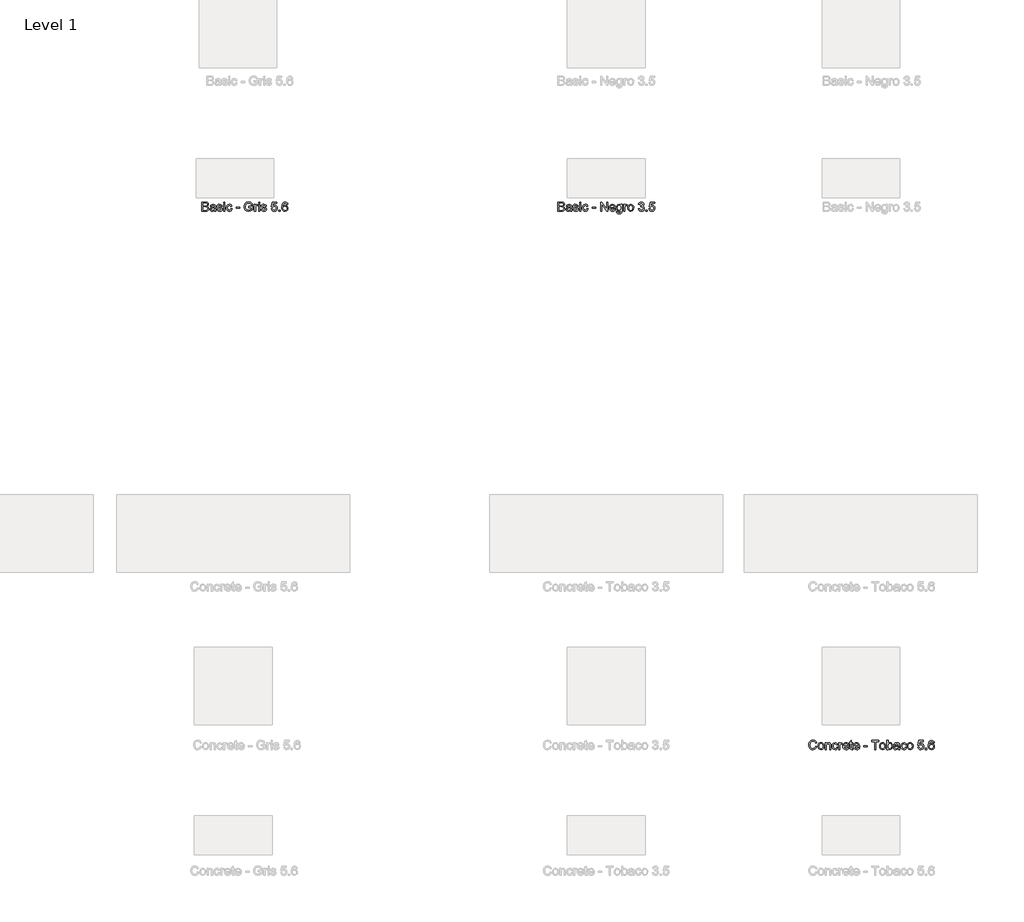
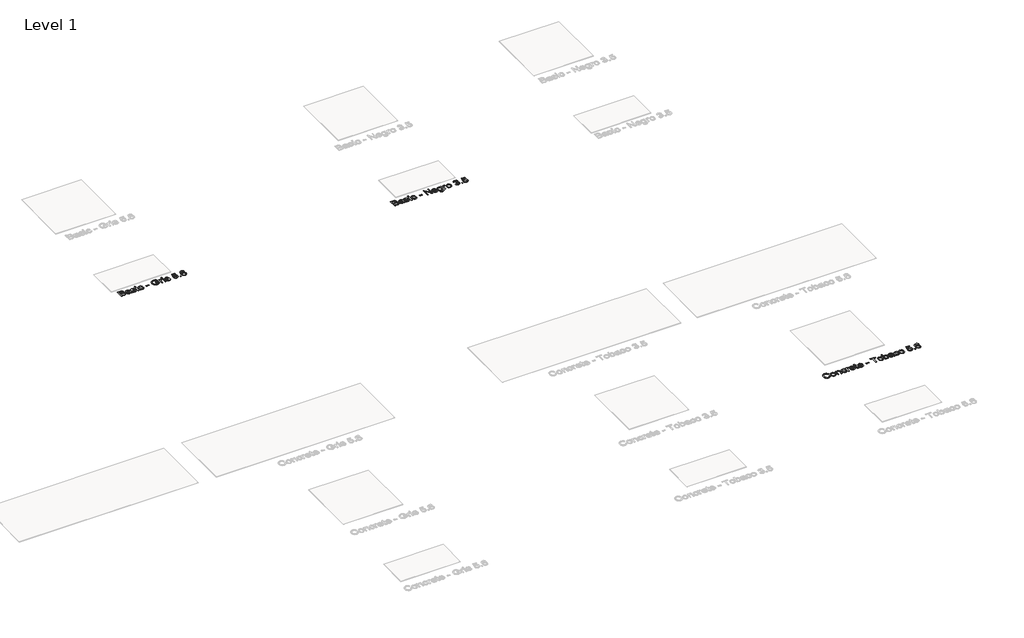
# One storey, part 54 of 80: 3 proxies.
"""IFC4 building model written with IfcOpenShell, lengths in millimetres."""

import ifcopenshell
import ifcopenshell.guid

model = None  # the IFC model being written
_history = None  # IfcOwnerHistory: only IFC2X3 demands one
_inside = {}  # id of a spatial element -> (the spatial element, [elements in it])
_under = {}  # id of a project, library or spatial element -> (it, [spatial elements below it])
_declared = {}  # id of a project -> (the project, [libraries it declares])
_typed = {}  # id of a type object -> (the type object, [elements of that type])
_made_of = {}  # id of a material, layer set ... -> (it, [elements and type objects made of it])


def new_model(schema):
    """Start an empty IFC model of exactly this schema.

    Asked for "IFC4X3", IfcOpenShell would pick the latest addendum, in which some entities
    have other attributes; the version numbers below select the first issue.
    IFC2X3 requires an IfcOwnerHistory on every rooted entity: one is made here for all.
    """
    global model, _history
    if schema == "IFC4X3":
        model = ifcopenshell.file(schema_version=(4, 3, 0, 0))
    else:
        model = ifcopenshell.file(schema=schema)
    _inside.clear()
    _under.clear()
    _declared.clear()
    _typed.clear()
    _made_of.clear()
    _history = None
    if model.schema == "IFC2X3":
        org = make("IfcOrganization", Name="unknown")
        user = make(
            "IfcPersonAndOrganization",
            ThePerson=make("IfcPerson", FamilyName="unknown"),
            TheOrganization=org,
        )
        app = make(
            "IfcApplication",
            ApplicationDeveloper=org,
            Version="unknown",
            ApplicationFullName="unknown",
            ApplicationIdentifier="unknown",
        )
        _history = make(
            "IfcOwnerHistory",
            OwningUser=user,
            OwningApplication=app,
            ChangeAction="ADDED",
            CreationDate=0,
        )
    return model


def make(cls, **values):
    """One entity of the class cls with the attributes given. An attribute that is None is left unset."""
    return model.create_entity(
        cls, **{name: value for name, value in values.items() if value is not None}
    )


def rooted(cls, **values):
    """An entity with a GlobalId (a new one), such as an element, a storey or a relation."""
    return make(cls, GlobalId=ifcopenshell.guid.new(), OwnerHistory=_history, **values)


def si_unit(unit_type, name, prefix=None):
    """IfcSIUnit, for example si_unit("LENGTHUNIT", "METRE", prefix="MILLI")."""
    return make("IfcSIUnit", UnitType=unit_type, Prefix=prefix, Name=name)


def assignment(units):
    """IfcUnitAssignment: the units of a project."""
    return None if units is None else make("IfcUnitAssignment", Units=units)


def point(xyz):
    """IfcCartesianPoint."""
    return None if xyz is None else make("IfcCartesianPoint", Coordinates=xyz)


def direction(xyz):
    """IfcDirection."""
    return None if xyz is None else make("IfcDirection", DirectionRatios=xyz)


def frame(location, z_axis=None, x_axis=None):
    """IfcAxis2Placement3D, a coordinate frame: its origin and axes. An axis left out is left unset."""
    return make(
        "IfcAxis2Placement3D",
        Location=point(location),
        Axis=direction(z_axis),
        RefDirection=direction(x_axis),
    )


def origin():
    """The frame at (0, 0, 0) with its axes left unset."""
    return frame((0.0, 0.0, 0.0))


def origin_with_axes():
    """The frame at (0, 0, 0) with the z axis (0, 0, 1) and the x axis (1, 0, 0) written out."""
    return frame((0.0, 0.0, 0.0), z_axis=(0.0, 0.0, 1.0), x_axis=(1.0, 0.0, 0.0))


def place(relative_to, where):
    """IfcLocalPlacement: puts the frame where relative to a parent placement (None: the world)."""
    return make(
        "IfcLocalPlacement", PlacementRelTo=relative_to, RelativePlacement=where
    )


def context(
    kind, dimensions, precision=None, world=None, true_north=None, identifier=None
):
    """IfcGeometricRepresentationContext, for example the 3D "Model" context."""
    return make(
        "IfcGeometricRepresentationContext",
        ContextIdentifier=identifier,
        ContextType=kind,
        CoordinateSpaceDimension=dimensions,
        Precision=precision,
        WorldCoordinateSystem=world,
        TrueNorth=true_north,
    )


def project(units=None, contexts=None):
    """IfcProject with its units and contexts."""
    return rooted(
        "IfcProject",
        Name="project",
        RepresentationContexts=contexts,
        UnitsInContext=assignment(units),
    )


def spatial(cls, under=None, at=None, **own):
    """A site, building, storey or space (cls), placed at a placement, below another one or the project."""
    s = rooted(cls, ObjectPlacement=at, **own)
    if under is not None:
        _under.setdefault(under.id(), (under, []))[1].append(s)
    return s


def polyline(points):
    """IfcPolyline through the points."""
    return make("IfcPolyline", Points=[point(p) for p in points])


def outline(outer, holes=None, kind="AREA"):
    """IfcArbitraryClosedProfileDef: a profile drawn as a closed curve; with holes, ...WithVoids."""
    if holes is None:
        return make("IfcArbitraryClosedProfileDef", ProfileType=kind, OuterCurve=outer)
    return make(
        "IfcArbitraryProfileDefWithVoids",
        ProfileType=kind,
        OuterCurve=outer,
        InnerCurves=holes,
    )


def extrude(swept, where, along, depth):
    """IfcExtrudedAreaSolid: the profile swept, set in the frame where, extruded along a direction by depth."""
    return make(
        "IfcExtrudedAreaSolid",
        SweptArea=swept,
        Position=where,
        ExtrudedDirection=direction(along),
        Depth=depth,
    )


def shape(context_of_items, identifier, shape_type, items):
    """IfcShapeRepresentation: the items that make up one representation, for example the "Body"."""
    return make(
        "IfcShapeRepresentation",
        ContextOfItems=context_of_items,
        RepresentationIdentifier=identifier,
        RepresentationType=shape_type,
        Items=items,
    )


def made_of(thing, what):
    """Note that an element or type object is made of a material, layer set ...; save() writes the relation."""
    if what is not None:
        _made_of.setdefault(what.id(), (what, []))[1].append(thing)
    return thing


def element(
    cls,
    number,
    at=None,
    inside=None,
    cuts=None,
    type_object=None,
    material=None,
    context=None,
    identifier="Body",
    shape_type=None,
    held_by="IfcProductDefinitionShape",
    body=None,
    shapes=None,
    **own,
):
    """One element of the class cls, such as IfcWall. Its Tag is "e" and its number.

    at: its placement. inside: the storey or other place that contains it. cuts: it is an
    opening in that element (IfcRelVoidsElement). A single representation is given by context,
    identifier, shape_type and body (its items); several are given by shapes. held_by: the class
    of the entity that holds the representations. save() writes the other relations.
    """
    e = rooted(cls, Tag="e%d" % number, ObjectPlacement=at, **own)
    if body is not None:
        shapes = [shape(context, identifier, shape_type, body)]
    if shapes is not None:
        e.Representation = make(held_by, Representations=shapes)
    if inside is not None:
        _inside.setdefault(inside.id(), (inside, []))[1].append(e)
    if cuts is not None:
        rooted(
            "IfcRelVoidsElement", RelatingBuildingElement=cuts, RelatedOpeningElement=e
        )
    if type_object is not None:
        _typed.setdefault(type_object.id(), (type_object, []))[1].append(e)
    return made_of(e, material)


def aggregate(whole, parts):
    """IfcRelAggregates: a whole, such as a stair, and the parts it consists of."""
    return rooted("IfcRelAggregates", RelatingObject=whole, RelatedObjects=parts)


def save(model, path):
    """Write the relations noted so far, then the file.

    IfcRelAggregates (storeys below a building ...), IfcRelContainedInSpatialStructure (elements
    in a storey), IfcRelDefinesByType, IfcRelAssociatesMaterial and IfcRelDeclares: one each for
    every whole, place, type object, material and project.
    """
    for whole, parts in _under.values():
        aggregate(whole, parts)
    for where, things in _inside.values():
        rooted(
            "IfcRelContainedInSpatialStructure",
            RelatedElements=things,
            RelatingStructure=where,
        )
    for kind, things in _typed.values():
        rooted("IfcRelDefinesByType", RelatedObjects=things, RelatingType=kind)
    for what, things in _made_of.values():
        rooted("IfcRelAssociatesMaterial", RelatedObjects=things, RelatingMaterial=what)
    for by, libraries in _declared.values():
        rooted("IfcRelDeclares", RelatingContext=by, RelatedDefinitions=libraries)
    model.write(path)


model = new_model("IFC4")

# Units and contexts
model_context = context("Model", 3, world=origin())
ifc_project = project(units=[si_unit("LENGTHUNIT", "METRE", prefix="MILLI")], contexts=[model_context])

# Site, building, storey
site = spatial("IfcSite", under=ifc_project)
building = spatial("IfcBuilding", under=site)
storey = spatial("IfcBuildingStorey", under=building, Name="Level 1", Elevation=0.0)

# Proxies
placement = place(None, origin())
element("IfcBuildingElementProxy", 1, Name="24\" Arial", ObjectType="24\" Arial", at=placement, inside=storey, context=model_context, shape_type="SweptSolid", body=[
    extrude(outline(polyline([(-15610.0215009, 15638.3282285), (-15610.0215009, 15756.4820747), (-15564.9349625, 15756.4820747), (-15542.8532317, 15753.0061131), (-15529.8147702, 15742.3186131), (-15525.098424, 15727.2032285), (-15529.0647702, 15713.4003439), (-15541.0503471, 15702.9436131), (-15526.4974625, 15691.9243824), (-15521.4061163, 15673.5493824), (-15524.8820779, 15657.6695747), (-15533.4926548, 15646.3618824), (-15546.3436163, 15640.3618824), (-15565.2811163, 15638.3282285), (-15610.0215009, 15638.3282285)]), holes=[polyline([(-15595.2522702, 15653.0974593), (-15564.9638086, 15653.0974593), (-15554.0022702, 15653.6743824), (-15544.7282317, 15656.8907285), (-15538.5840009, 15663.4532285), (-15536.1753471, 15673.4051516), (-15539.0022702, 15684.8859208), (-15548.160924, 15691.7368824), (-15566.4061163, 15693.7128439), (-15595.2522702, 15693.7128439), (-15595.2522702, 15653.0974593)]), polyline([(-15595.2522702, 15708.4820747), (-15568.2811163, 15708.4820747), (-15552.5311163, 15709.7513054), (-15543.0551548, 15715.2176516), (-15539.8676548, 15724.8378439), (-15542.8388086, 15734.4724593), (-15551.348424, 15740.1695747), (-15570.3291933, 15741.7128439), (-15595.2522702, 15741.7128439), (-15595.2522702, 15708.4820747)])]), origin_with_axes(), (0.0, 0.0, 1.0), 2.0),
    extrude(outline(polyline([(-15447.5599625, 15649.4051516), (-15461.8820779, 15639.3955362), (-15477.7041933, 15636.4820747), (-15490.0467413, 15638.2344785), (-15499.1513086, 15643.4916901), (-15504.7654913, 15651.4748631), (-15506.6368856, 15661.4051516), (-15503.8099625, 15673.0878439), (-15496.3820779, 15681.5686131), (-15486.0407317, 15686.414767), (-15473.2618856, 15688.6359208), (-15447.6465009, 15693.7128439), (-15447.5599625, 15697.0013054), (-15451.6272702, 15707.9051516), (-15467.9541933, 15712.1743824), (-15482.8965009, 15709.3330362), (-15490.0215009, 15699.2513054), (-15504.7907317, 15701.0974593), (-15498.4013086, 15715.5205362), (-15485.535924, 15723.9724593), (-15466.0503471, 15726.9436131), (-15448.1513086, 15724.3186131), (-15438.0407317, 15717.727267), (-15433.5118856, 15707.7032285), (-15432.7907317, 15694.7801516), (-15432.7907317, 15676.4051516), (-15432.0407317, 15650.7464977), (-15429.098424, 15638.3282285), (-15443.8676548, 15638.3282285), (-15447.5599625, 15649.4051516)]), holes=[polyline([(-15447.5599625, 15678.9436131), (-15471.3868856, 15674.414767), (-15484.0936163, 15672.0205362), (-15489.848424, 15668.1263054), (-15491.8676548, 15662.4436131), (-15487.4686163, 15654.4532285), (-15474.5599625, 15651.2513054), (-15459.6176548, 15654.7849593), (-15449.9830394, 15663.3378439), (-15447.6465009, 15674.7609208), (-15447.5599625, 15678.9436131)])]), origin_with_axes(), (0.0, 0.0, 1.0), 2.0),
    extrude(outline(polyline([(-15418.0215009, 15664.1743824), (-15403.2522702, 15666.0205362), (-15396.4157317, 15655.0589977), (-15380.7522702, 15651.2513054), (-15365.6945779, 15654.7416901), (-15360.7907317, 15662.9339977), (-15365.723424, 15669.5686131), (-15380.9253471, 15673.7801516), (-15403.1657317, 15681.0061131), (-15412.8724625, 15689.4436131), (-15416.1753471, 15701.3570747), (-15413.5215009, 15712.3618824), (-15406.2811163, 15720.7705362), (-15396.8916933, 15725.1407285), (-15384.1849625, 15726.9436131), (-15366.2138086, 15724.0445747), (-15354.7907317, 15716.1984208), (-15349.7138086, 15702.9436131), (-15364.4830394, 15701.0974593), (-15370.035924, 15709.2464977), (-15383.0311163, 15712.1743824), (-15397.1657317, 15709.3763054), (-15401.4061163, 15702.8570747), (-15399.6465009, 15698.5589977), (-15394.1368856, 15695.2993824), (-15381.4157317, 15692.1551516), (-15359.7378471, 15685.2032285), (-15349.6705394, 15677.3282285), (-15346.0215009, 15664.4916901), (-15350.3051548, 15650.3570747), (-15362.6657317, 15640.102267), (-15380.9541933, 15636.4820747), (-15395.8460202, 15638.227267), (-15406.7138086, 15643.4628439), (-15413.9686163, 15652.1311131), (-15418.0215009, 15664.1743824)])), origin_with_axes(), (0.0, 0.0, 1.0), 2.0),
    extrude(outline(polyline([(-15329.4061163, 15638.3282285), (-15329.4061163, 15725.0974593), (-15314.6368856, 15725.0974593), (-15314.6368856, 15638.3282285), (-15329.4061163, 15638.3282285)])), origin_with_axes(), (0.0, 0.0, 1.0), 2.0),
    extrude(outline(polyline([(-15329.4061163, 15741.7128439), (-15329.4061163, 15756.4820747), (-15314.6368856, 15756.4820747), (-15314.6368856, 15741.7128439), (-15329.4061163, 15741.7128439)])), origin_with_axes(), (0.0, 0.0, 1.0), 2.0),
    extrude(outline(polyline([(-15237.098424, 15669.7128439), (-15222.3291933, 15667.8666901), (-15226.4469817, 15654.7308727), (-15234.1849625, 15644.8041901), (-15244.8147702, 15638.5626035), (-15257.6080394, 15636.4820747), (-15273.3183759, 15639.3847189), (-15285.6032317, 15648.0926516), (-15293.5323183, 15662.2236612), (-15296.1753471, 15681.3955362), (-15291.660924, 15705.9291901), (-15285.9638086, 15715.1275074), (-15277.9013086, 15721.6936131), (-15257.8099625, 15726.9436131), (-15245.3303952, 15725.1407285), (-15235.3532317, 15719.7320747), (-15228.1957798, 15711.0061131), (-15224.1753471, 15699.2513054), (-15238.9445779, 15697.4051516), (-15245.7955394, 15708.4676516), (-15257.6945779, 15712.1743824), (-15267.239049, 15710.3498631), (-15274.8147702, 15704.8763054), (-15279.7582798, 15695.4580362), (-15281.4061163, 15681.7993824), (-15279.7943375, 15667.9568343), (-15274.9590009, 15658.5061131), (-15267.520299, 15653.0650074), (-15258.098424, 15651.2513054), (-15244.1801548, 15655.7801516), (-15237.098424, 15669.7128439)])), origin_with_axes(), (0.0, 0.0, 1.0), 2.0),
    extrude(outline(polyline([(-15170.6368856, 15673.4051516), (-15170.6368856, 15688.1743824), (-15124.4830394, 15688.1743824), (-15124.4830394, 15673.4051516), (-15170.6368856, 15673.4051516)])), origin_with_axes(), (0.0, 0.0, 1.0), 2.0),
    extrude(outline(polyline([(-15004.4830394, 15684.4820747), (-15004.4830394, 15699.2513054), (-14956.4830394, 15699.2513054), (-14956.4830394, 15655.0878439), (-14980.1801548, 15641.1551516), (-15005.2330394, 15636.4820747), (-15021.801549, 15638.3390458), (-15036.7763086, 15643.9099593), (-15049.2162125, 15653.0001035), (-15058.1801548, 15665.414767), (-15063.5996259, 15680.3065939), (-15065.4061163, 15696.8282285), (-15063.6068375, 15713.4688535), (-15058.2090009, 15728.9484208), (-15049.4361644, 15741.9327958), (-15037.5118856, 15751.0878439), (-15022.9878471, 15756.5181324), (-15006.4157317, 15758.3282285), (-14983.3099625, 15754.1311131), (-14967.1128471, 15742.4484208), (-14958.1849625, 15722.9051516), (-14971.8003471, 15719.0686131), (-14978.535924, 15732.727267), (-14990.0455394, 15740.602267), (-15006.6465009, 15743.5589977), (-15025.5551548, 15740.3714977), (-15038.4205394, 15732.0061131), (-15046.0215009, 15720.6263054), (-15050.6368856, 15697.4339977), (-15049.2486644, 15683.3101997), (-15045.0840009, 15671.6888054), (-15038.2690971, 15662.6527477), (-15028.9301548, 15656.2849593), (-15006.4157317, 15651.2513054), (-14986.2090009, 15655.0445747), (-14971.2522702, 15663.1359208), (-14971.2522702, 15684.4820747), (-15004.4830394, 15684.4820747)])), origin_with_axes(), (0.0, 0.0, 1.0), 2.0),
    extrude(outline(polyline([(-14934.3291933, 15638.3282285), (-14934.3291933, 15725.0974593), (-14921.4061163, 15725.0974593), (-14921.4061163, 15712.2609208), (-14912.2330394, 15724.0878439), (-14903.0022702, 15726.9436131), (-14888.1753471, 15722.3859208), (-14893.1080394, 15709.1455362), (-14903.4926548, 15712.1743824), (-14911.8436163, 15709.2609208), (-14917.1657317, 15701.1839977), (-14919.5599625, 15683.9339977), (-14919.5599625, 15638.3282285), (-14934.3291933, 15638.3282285)])), origin_with_axes(), (0.0, 0.0, 1.0), 2.0),
    extrude(outline(polyline([(-14878.9445779, 15741.7128439), (-14878.9445779, 15756.4820747), (-14864.1753471, 15756.4820747), (-14864.1753471, 15741.7128439), (-14878.9445779, 15741.7128439)])), origin_with_axes(), (0.0, 0.0, 1.0), 2.0),
    extrude(outline(polyline([(-14878.9445779, 15638.3282285), (-14878.9445779, 15725.0974593), (-14864.1753471, 15725.0974593), (-14864.1753471, 15638.3282285), (-14878.9445779, 15638.3282285)])), origin_with_axes(), (0.0, 0.0, 1.0), 2.0),
    extrude(outline(polyline([(-14847.5599625, 15664.1743824), (-14832.7907317, 15666.0205362), (-14825.9541933, 15655.0589977), (-14810.2907317, 15651.2513054), (-14795.2330394, 15654.7416901), (-14790.3291933, 15662.9339977), (-14795.2618856, 15669.5686131), (-14810.4638086, 15673.7801516), (-14832.7041933, 15681.0061131), (-14842.410924, 15689.4436131), (-14845.7138086, 15701.3570747), (-14843.0599625, 15712.3618824), (-14835.8195779, 15720.7705362), (-14826.4301548, 15725.1407285), (-14813.723424, 15726.9436131), (-14795.7522702, 15724.0445747), (-14784.3291933, 15716.1984208), (-14779.2522702, 15702.9436131), (-14794.0215009, 15701.0974593), (-14799.5743856, 15709.2464977), (-14812.5695779, 15712.1743824), (-14826.7041933, 15709.3763054), (-14830.9445779, 15702.8570747), (-14829.1849625, 15698.5589977), (-14823.6753471, 15695.2993824), (-14810.9541933, 15692.1551516), (-14789.2763086, 15685.2032285), (-14779.2090009, 15677.3282285), (-14775.5599625, 15664.4916901), (-14779.8436163, 15650.3570747), (-14792.2041933, 15640.102267), (-14810.4926548, 15636.4820747), (-14825.3844817, 15638.227267), (-14836.2522702, 15643.4628439), (-14843.5070779, 15652.1311131), (-14847.5599625, 15664.1743824)])), origin_with_axes(), (0.0, 0.0, 1.0), 2.0),
    extrude(outline(polyline([(-14716.4830394, 15669.7128439), (-14701.7138086, 15671.5589977), (-14694.2715009, 15656.3426516), (-14678.8388086, 15651.2513054), (-14668.2522702, 15653.0217381), (-14660.3195779, 15658.3330362), (-14655.3652509, 15666.5722189), (-14653.7138086, 15677.1263054), (-14655.2606836, 15687.0638054), (-14659.9013086, 15694.664767), (-14667.6717413, 15699.4892862), (-14678.6080394, 15701.0974593), (-14691.5743856, 15698.5301516), (-14699.8676548, 15691.8666901), (-14714.6368856, 15693.7128439), (-14701.7138086, 15754.6359208), (-14644.4830394, 15754.6359208), (-14644.4830394, 15739.8666901), (-14689.7715009, 15739.8666901), (-14696.0888086, 15707.3282285), (-14685.5383279, 15713.7320747), (-14674.4830394, 15715.8666901), (-14660.6837606, 15713.2200554), (-14649.2282317, 15705.2801516), (-14641.5154913, 15693.1791901), (-14638.9445779, 15678.0493824), (-14641.2594817, 15663.2801516), (-14648.2041933, 15650.6455362), (-14661.5022702, 15640.0229401), (-14678.8965009, 15636.4820747), (-14693.4025106, 15638.7573151), (-14704.9590009, 15645.5830362), (-14712.8808759, 15656.1659689), (-14716.4830394, 15669.7128439)])), origin_with_axes(), (0.0, 0.0, 1.0), 2.0),
    extrude(outline(polyline([(-14618.6368856, 15638.3282285), (-14618.6368856, 15653.0974593), (-14603.8676548, 15653.0974593), (-14603.8676548, 15638.3282285), (-14618.6368856, 15638.3282285)])), origin_with_axes(), (0.0, 0.0, 1.0), 2.0),
    extrude(outline(polyline([(-14504.1753471, 15725.0974593), (-14518.9445779, 15723.2513054), (-14524.5407317, 15735.5686131), (-14531.2402509, 15740.1767862), (-14539.3388086, 15741.7128439), (-14552.6657317, 15738.1359208), (-14562.7474625, 15724.7080362), (-14566.9445779, 15698.3859208), (-14553.9205394, 15710.1695747), (-14537.7811163, 15714.0205362), (-14524.1368856, 15711.3883247), (-14512.6849625, 15703.4916901), (-14504.9181356, 15691.4267862), (-14502.3291933, 15676.289767), (-14507.2041933, 15655.9099593), (-14520.6176548, 15641.4868824), (-14539.973424, 15636.4820747), (-14556.7294336, 15639.7993824), (-14570.0743856, 15649.7513054), (-14578.8039529, 15667.3186131), (-14581.7138086, 15693.4820747), (-14578.4830394, 15722.8979401), (-14568.7907317, 15743.0109208), (-14555.5575586, 15753.1142862), (-14538.4157317, 15756.4820747), (-14525.4565971, 15754.3979401), (-14515.0791933, 15748.1455362), (-14507.8099625, 15738.2152477), (-14504.1753471, 15725.0974593)]), holes=[polyline([(-14566.9445779, 15676.5205362), (-14563.5263086, 15663.727267), (-14554.4397702, 15654.4388054), (-14541.1272702, 15651.2513054), (-14531.3808759, 15652.9027477), (-14523.7186163, 15657.8570747), (-14518.7534721, 15665.6455362), (-14517.098424, 15675.7993824), (-14518.7318375, 15685.5457766), (-14523.6320779, 15692.977267), (-14531.4241452, 15697.6827958), (-14541.7330394, 15699.2513054), (-14551.4650106, 15697.6827958), (-14559.6032317, 15692.977267), (-14565.1092413, 15685.7260651), (-14566.9445779, 15676.5205362)])]), origin_with_axes(), (0.0, 0.0, 1.0), 2.0),
])
element("IfcBuildingElementProxy", 2, Name="24\" Arial", ObjectType="24\" Arial", at=placement, inside=storey, context=model_context, shape_type="SweptSolid", body=[
    extrude(outline(polyline([(-7707.9991848, 8750.084666), (-7693.2299541, 8746.2769737), (-7700.0448579, 8729.0666372), (-7710.7395694, 8716.4933199), (-7724.7876464, 8708.8022141), (-7741.6626464, 8706.2385122), (-7758.793656, 8708.178416), (-7772.3982233, 8713.9981275), (-7782.8261079, 8723.4957237), (-7790.4270694, 8736.4692814), (-7795.0676944, 8751.7216852), (-7796.6145694, 8768.0558199), (-7794.8657714, 8785.2841852), (-7789.6193771, 8800.1615891), (-7781.1494252, 8812.2156756), (-7769.7299541, 8820.9740891), (-7756.1866848, 8826.3070218), (-7741.3453387, 8828.084666), (-7725.1518291, 8825.7841852), (-7711.7636079, 8818.8827429), (-7701.5989444, 8807.8058199), (-7695.0761079, 8792.9788968), (-7709.8453387, 8789.459666), (-7714.965531, 8800.2300987), (-7721.9607233, 8807.6183199), (-7730.9174541, 8811.8911564), (-7741.9222617, 8813.3154352), (-7754.6073579, 8811.7361083), (-7765.028031, 8806.9981275), (-7772.9354829, 8799.5990891), (-7778.0809156, 8790.0365891), (-7781.8453387, 8768.084666), (-7777.3886079, 8742.6423583), (-7771.6914925, 8733.1411564), (-7763.5136079, 8726.3875506), (-7743.1338002, 8721.0077429), (-7730.8056752, 8722.8394737), (-7720.5328387, 8728.334666), (-7712.7768291, 8737.4356275), (-7707.9991848, 8750.084666)])), origin_with_axes(), (0.0, 0.0, 1.0), 2.0),
    extrude(outline(polyline([(-7678.4607233, 8751.4692814), (-7675.2660117, 8772.3899545), (-7665.6818771, 8787.0942814), (-7653.840531, 8794.2986083), (-7639.6626464, 8796.7000506), (-7624.1470214, 8793.7757718), (-7611.7539925, 8785.0029352), (-7603.6301944, 8771.0738487), (-7600.9222617, 8752.6808199), (-7605.7107233, 8726.4019737), (-7619.6578387, 8711.5317814), (-7639.6626464, 8706.2385122), (-7655.3657714, 8709.1519737), (-7667.7443771, 8717.8923583), (-7675.7816367, 8732.1135122), (-7678.4607233, 8751.4692814)]), holes=[polyline([(-7663.6914925, 8751.4981275), (-7661.9823579, 8738.131541), (-7656.8549541, 8728.6087045), (-7649.1386079, 8722.9079833), (-7639.6626464, 8721.0077429), (-7630.2299541, 8722.9188006), (-7622.528031, 8728.6519737), (-7617.4006271, 8738.3010122), (-7615.6914925, 8751.959666), (-7617.4114444, 8764.9368295), (-7622.5713002, 8774.3298583), (-7630.2840406, 8780.0305795), (-7639.6626464, 8781.9308199), (-7649.1386079, 8780.037791), (-7656.8549541, 8774.3587045), (-7661.9823579, 8764.8575025), (-7663.6914925, 8751.4981275)])]), origin_with_axes(), (0.0, 0.0, 1.0), 2.0),
    extrude(outline(polyline([(-7584.3068771, 8708.084666), (-7584.3068771, 8794.8538968), (-7569.5376464, 8794.8538968), (-7569.5376464, 8782.7385122), (-7558.2443771, 8793.209666), (-7542.8261079, 8796.7000506), (-7528.8789925, 8793.8875506), (-7519.3597617, 8786.5029352), (-7514.9318771, 8775.6423583), (-7514.153031, 8761.3635122), (-7514.153031, 8708.084666), (-7528.9222617, 8708.084666), (-7528.9222617, 8759.3731275), (-7530.6241848, 8772.4404352), (-7536.6386079, 8779.3490891), (-7546.778031, 8781.9308199), (-7562.8020694, 8776.1327429), (-7567.8537521, 8767.7313006), (-7569.5376464, 8754.1231275), (-7569.5376464, 8708.084666), (-7584.3068771, 8708.084666)])), origin_with_axes(), (0.0, 0.0, 1.0), 2.0),
    extrude(outline(polyline([(-7438.4607233, 8739.4692814), (-7423.6914925, 8737.6231275), (-7427.809281, 8724.4873102), (-7435.5472617, 8714.5606275), (-7446.1770694, 8708.319041), (-7458.9703387, 8706.2385122), (-7474.6806752, 8709.1411564), (-7486.965531, 8717.8490891), (-7494.8946175, 8731.9800987), (-7497.5376464, 8751.1519737), (-7493.0232233, 8775.6856275), (-7487.3261079, 8784.8839449), (-7479.2636079, 8791.4500506), (-7459.1722617, 8796.7000506), (-7446.6926944, 8794.897166), (-7436.715531, 8789.4885122), (-7429.5580791, 8780.7625506), (-7425.5376464, 8769.0077429), (-7440.3068771, 8767.1615891), (-7447.1578387, 8778.2240891), (-7459.0568771, 8781.9308199), (-7468.6013483, 8780.1063006), (-7476.1770694, 8774.6327429), (-7481.1205791, 8765.2144737), (-7482.7684156, 8751.5558199), (-7481.1566367, 8737.7132718), (-7476.3213002, 8728.2625506), (-7468.8825983, 8722.8214449), (-7459.4607233, 8721.0077429), (-7445.5424541, 8725.5365891), (-7438.4607233, 8739.4692814)])), origin_with_axes(), (0.0, 0.0, 1.0), 2.0),
    extrude(outline(polyline([(-7410.7684156, 8708.084666), (-7410.7684156, 8794.8538968), (-7397.8453387, 8794.8538968), (-7397.8453387, 8782.0173583), (-7388.6722617, 8793.8442814), (-7379.4414925, 8796.7000506), (-7364.6145694, 8792.1423583), (-7369.5472617, 8778.9019737), (-7379.9318771, 8781.9308199), (-7388.2828387, 8779.0173583), (-7393.6049541, 8770.9404352), (-7395.9991848, 8753.6904352), (-7395.9991848, 8708.084666), (-7410.7684156, 8708.084666)])), origin_with_axes(), (0.0, 0.0, 1.0), 2.0),
    extrude(outline(polyline([(-7294.6338002, 8733.9308199), (-7280.153031, 8732.084666), (-7285.3705791, 8721.1736083), (-7293.6963002, 8713.0173583), (-7304.9426944, 8707.9332237), (-7318.9222617, 8706.2385122), (-7336.2515887, 8709.162791), (-7349.5857233, 8717.9356275), (-7358.0881271, 8731.9873102), (-7360.9222617, 8750.7481275), (-7358.059281, 8770.1399545), (-7349.4703387, 8784.6423583), (-7336.3164925, 8793.6856275), (-7319.7588002, 8796.7000506), (-7303.7167329, 8793.6928391), (-7290.8982233, 8784.6712045), (-7282.4931752, 8770.1976468), (-7279.6914925, 8750.834666), (-7279.778031, 8746.8538968), (-7346.153031, 8746.8538968), (-7343.5965406, 8735.7986083), (-7337.6578387, 8727.6712045), (-7329.0869252, 8722.6736083), (-7318.6338002, 8721.0077429), (-7304.153031, 8724.0942814), (-7294.6338002, 8733.9308199)]), holes=[polyline([(-7346.153031, 8761.6231275), (-7294.4607233, 8761.6231275), (-7300.3741848, 8775.0077429), (-7308.9847617, 8780.2000506), (-7319.8164925, 8781.9308199), (-7338.0039925, 8776.4067814), (-7343.7263483, 8769.9488487), (-7346.153031, 8761.6231275)])]), origin_with_axes(), (0.0, 0.0, 1.0), 2.0),
    extrude(outline(polyline([(-7233.5376464, 8720.4019737), (-7231.6914925, 8707.6519737), (-7242.7395694, 8706.2385122), (-7255.1145694, 8708.6904352), (-7261.2876464, 8715.1231275), (-7263.0761079, 8731.8827429), (-7263.0761079, 8780.084666), (-7274.153031, 8780.084666), (-7274.153031, 8794.8538968), (-7263.0761079, 8794.8538968), (-7263.0761079, 8815.9404352), (-7248.3068771, 8824.6231275), (-7248.3068771, 8794.8538968), (-7233.5376464, 8794.8538968), (-7233.5376464, 8780.084666), (-7248.3068771, 8780.084666), (-7248.3068771, 8732.3154352), (-7247.528031, 8724.7000506), (-7245.0039925, 8722.0029352), (-7239.9703387, 8721.0077429), (-7233.5376464, 8720.4019737)])), origin_with_axes(), (0.0, 0.0, 1.0), 2.0),
    extrude(outline(polyline([(-7158.0184156, 8733.9308199), (-7143.5376464, 8732.084666), (-7148.7551944, 8721.1736083), (-7157.0809156, 8713.0173583), (-7168.3273098, 8707.9332237), (-7182.3068771, 8706.2385122), (-7199.6362041, 8709.162791), (-7212.9703387, 8717.9356275), (-7221.4727425, 8731.9873102), (-7224.3068771, 8750.7481275), (-7221.4438964, 8770.1399545), (-7212.8549541, 8784.6423583), (-7199.7011079, 8793.6856275), (-7183.1434156, 8796.7000506), (-7167.1013483, 8793.6928391), (-7154.2828387, 8784.6712045), (-7145.8777906, 8770.1976468), (-7143.0761079, 8750.834666), (-7143.1626464, 8746.8538968), (-7209.5376464, 8746.8538968), (-7206.981156, 8735.7986083), (-7201.0424541, 8727.6712045), (-7192.4715406, 8722.6736083), (-7182.0184156, 8721.0077429), (-7167.5376464, 8724.0942814), (-7158.0184156, 8733.9308199)]), holes=[polyline([(-7209.5376464, 8761.6231275), (-7157.8453387, 8761.6231275), (-7163.7588002, 8775.0077429), (-7172.3693771, 8780.2000506), (-7183.2011079, 8781.9308199), (-7201.3886079, 8776.4067814), (-7207.1109637, 8769.9488487), (-7209.5376464, 8761.6231275)])]), origin_with_axes(), (0.0, 0.0, 1.0), 2.0),
    extrude(outline(polyline([(-7089.5376464, 8743.1615891), (-7089.5376464, 8757.9308199), (-7043.3838002, 8757.9308199), (-7043.3838002, 8743.1615891), (-7089.5376464, 8743.1615891)])), origin_with_axes(), (0.0, 0.0, 1.0), 2.0),
    extrude(outline(polyline([(-6949.2299541, 8708.084666), (-6949.2299541, 8811.4692814), (-6987.9991848, 8811.4692814), (-6987.9991848, 8826.2385122), (-6895.6914925, 8826.2385122), (-6895.6914925, 8811.4692814), (-6934.4607233, 8811.4692814), (-6934.4607233, 8708.084666), (-6949.2299541, 8708.084666)])), origin_with_axes(), (0.0, 0.0, 1.0), 2.0),
    extrude(outline(polyline([(-6884.6145694, 8751.4692814), (-6881.4198579, 8772.3899545), (-6871.8357233, 8787.0942814), (-6859.9943771, 8794.2986083), (-6845.8164925, 8796.7000506), (-6830.3008675, 8793.7757718), (-6817.9078387, 8785.0029352), (-6809.7840406, 8771.0738487), (-6807.0761079, 8752.6808199), (-6811.8645694, 8726.4019737), (-6825.8116848, 8711.5317814), (-6845.8164925, 8706.2385122), (-6861.5196175, 8709.1519737), (-6873.8982233, 8717.8923583), (-6881.9354829, 8732.1135122), (-6884.6145694, 8751.4692814)]), holes=[polyline([(-6869.8453387, 8751.4981275), (-6868.1362041, 8738.131541), (-6863.0088002, 8728.6087045), (-6855.2924541, 8722.9079833), (-6845.8164925, 8721.0077429), (-6836.3838002, 8722.9188006), (-6828.6818771, 8728.6519737), (-6823.5544733, 8738.3010122), (-6821.8453387, 8751.959666), (-6823.5652906, 8764.9368295), (-6828.7251464, 8774.3298583), (-6836.4378867, 8780.0305795), (-6845.8164925, 8781.9308199), (-6855.2924541, 8780.037791), (-6863.0088002, 8774.3587045), (-6868.1362041, 8764.8575025), (-6869.8453387, 8751.4981275)])]), origin_with_axes(), (0.0, 0.0, 1.0), 2.0),
    extrude(outline(polyline([(-6775.6914925, 8708.084666), (-6790.4607233, 8708.084666), (-6790.4607233, 8826.2385122), (-6775.6914925, 8826.2385122), (-6775.6914925, 8782.4212045), (-6765.3501464, 8793.1303391), (-6752.4991848, 8796.7000506), (-6737.7011079, 8793.4837045), (-6726.2203387, 8784.4404352), (-6719.1674541, 8770.3779352), (-6716.6145694, 8752.7673583), (-6719.2575983, 8733.0510122), (-6727.1866848, 8718.3827429), (-6738.8225021, 8709.2745699), (-6752.5857233, 8706.2385122), (-6765.7179348, 8710.1543775), (-6775.6914925, 8721.9019737), (-6775.6914925, 8708.084666)]), holes=[polyline([(-6775.6914925, 8752.0750506), (-6771.653031, 8731.4212045), (-6763.9150502, 8723.6111083), (-6753.8549541, 8721.0077429), (-6745.3309156, 8722.9260122), (-6738.0472617, 8728.6808199), (-6733.0496656, 8738.2361083), (-6731.3838002, 8751.5558199), (-6732.981156, 8765.0702429), (-6737.7732233, 8774.5173583), (-6744.8297137, 8780.0774545), (-6753.2203387, 8781.9308199), (-6761.7443771, 8780.0125506), (-6769.028031, 8774.2577429), (-6774.0256271, 8764.8755314), (-6775.6914925, 8752.0750506)])]), origin_with_axes(), (0.0, 0.0, 1.0), 2.0),
    extrude(outline(polyline([(-6644.6145694, 8719.1615891), (-6658.9366848, 8709.1519737), (-6674.7588002, 8706.2385122), (-6687.1013483, 8707.990916), (-6696.2059156, 8713.2481275), (-6701.8200983, 8721.2313006), (-6703.6914925, 8731.1615891), (-6700.8645694, 8742.8442814), (-6693.4366848, 8751.3250506), (-6683.0953387, 8756.1712045), (-6670.3164925, 8758.3923583), (-6644.7011079, 8763.4692814), (-6644.6145694, 8766.7577429), (-6648.6818771, 8777.6615891), (-6665.0088002, 8781.9308199), (-6679.9511079, 8779.0894737), (-6687.0761079, 8769.0077429), (-6701.8453387, 8770.8538968), (-6695.4559156, 8785.2769737), (-6682.590531, 8793.7288968), (-6663.1049541, 8796.7000506), (-6645.2059156, 8794.0750506), (-6635.0953387, 8787.4837045), (-6630.5664925, 8777.459666), (-6629.8453387, 8764.5365891), (-6629.8453387, 8746.1615891), (-6629.0953387, 8720.5029352), (-6626.153031, 8708.084666), (-6640.9222617, 8708.084666), (-6644.6145694, 8719.1615891)]), holes=[polyline([(-6644.6145694, 8748.7000506), (-6668.4414925, 8744.1712045), (-6681.1482233, 8741.7769737), (-6686.903031, 8737.8827429), (-6688.9222617, 8732.2000506), (-6684.5232233, 8724.209666), (-6671.6145694, 8721.0077429), (-6656.6722617, 8724.5413968), (-6647.0376464, 8733.0942814), (-6644.7011079, 8744.5173583), (-6644.6145694, 8748.7000506)])]), origin_with_axes(), (0.0, 0.0, 1.0), 2.0),
    extrude(outline(polyline([(-6554.153031, 8739.4692814), (-6539.3838002, 8737.6231275), (-6543.5015887, 8724.4873102), (-6551.2395694, 8714.5606275), (-6561.8693771, 8708.319041), (-6574.6626464, 8706.2385122), (-6590.3729829, 8709.1411564), (-6602.6578387, 8717.8490891), (-6610.5869252, 8731.9800987), (-6613.2299541, 8751.1519737), (-6608.715531, 8775.6856275), (-6603.0184156, 8784.8839449), (-6594.9559156, 8791.4500506), (-6574.8645694, 8796.7000506), (-6562.3850021, 8794.897166), (-6552.4078387, 8789.4885122), (-6545.2503867, 8780.7625506), (-6541.2299541, 8769.0077429), (-6555.9991848, 8767.1615891), (-6562.8501464, 8778.2240891), (-6574.7491848, 8781.9308199), (-6584.293656, 8780.1063006), (-6591.8693771, 8774.6327429), (-6596.8128867, 8765.2144737), (-6598.4607233, 8751.5558199), (-6596.8489444, 8737.7132718), (-6592.0136079, 8728.2625506), (-6584.574906, 8722.8214449), (-6575.153031, 8721.0077429), (-6561.2347617, 8725.5365891), (-6554.153031, 8739.4692814)])), origin_with_axes(), (0.0, 0.0, 1.0), 2.0),
    extrude(outline(polyline([(-6530.153031, 8751.4692814), (-6526.9583194, 8772.3899545), (-6517.3741848, 8787.0942814), (-6505.5328387, 8794.2986083), (-6491.3549541, 8796.7000506), (-6475.8393291, 8793.7757718), (-6463.4463002, 8785.0029352), (-6455.3225021, 8771.0738487), (-6452.6145694, 8752.6808199), (-6457.403031, 8726.4019737), (-6471.3501464, 8711.5317814), (-6491.3549541, 8706.2385122), (-6507.0580791, 8709.1519737), (-6519.4366848, 8717.8923583), (-6527.4739444, 8732.1135122), (-6530.153031, 8751.4692814)]), holes=[polyline([(-6515.3838002, 8751.4981275), (-6513.6746656, 8738.131541), (-6508.5472617, 8728.6087045), (-6500.8309156, 8722.9079833), (-6491.3549541, 8721.0077429), (-6481.9222617, 8722.9188006), (-6474.2203387, 8728.6519737), (-6469.0929348, 8738.3010122), (-6467.3838002, 8751.959666), (-6469.1037521, 8764.9368295), (-6474.2636079, 8774.3298583), (-6481.9763483, 8780.0305795), (-6491.3549541, 8781.9308199), (-6500.8309156, 8780.037791), (-6508.5472617, 8774.3587045), (-6513.6746656, 8764.8575025), (-6515.3838002, 8751.4981275)])]), origin_with_axes(), (0.0, 0.0, 1.0), 2.0),
    extrude(outline(polyline([(-6393.5376464, 8739.4692814), (-6378.7684156, 8741.3154352), (-6371.3261079, 8726.0990891), (-6355.8934156, 8721.0077429), (-6345.3068771, 8722.7781756), (-6337.3741848, 8728.0894737), (-6332.4198579, 8736.3286564), (-6330.7684156, 8746.8827429), (-6332.3152906, 8756.8202429), (-6336.9559156, 8764.4212045), (-6344.7263483, 8769.2457237), (-6355.6626464, 8770.8538968), (-6368.6289925, 8768.2865891), (-6376.9222617, 8761.6231275), (-6391.6914925, 8763.4692814), (-6378.7684156, 8824.3923583), (-6321.5376464, 8824.3923583), (-6321.5376464, 8809.6231275), (-6366.8261079, 8809.6231275), (-6373.1434156, 8777.084666), (-6362.5929348, 8783.4885122), (-6351.5376464, 8785.6231275), (-6337.7383675, 8782.9764929), (-6326.2828387, 8775.0365891), (-6318.5700983, 8762.9356275), (-6315.9991848, 8747.8058199), (-6318.3140887, 8733.0365891), (-6325.2588002, 8720.4019737), (-6338.5568771, 8709.7793775), (-6355.9511079, 8706.2385122), (-6370.4571175, 8708.5137525), (-6382.0136079, 8715.3394737), (-6389.9354829, 8725.9224064), (-6393.5376464, 8739.4692814)])), origin_with_axes(), (0.0, 0.0, 1.0), 2.0),
    extrude(outline(polyline([(-6295.6914925, 8708.084666), (-6295.6914925, 8722.8538968), (-6280.9222617, 8722.8538968), (-6280.9222617, 8708.084666), (-6295.6914925, 8708.084666)])), origin_with_axes(), (0.0, 0.0, 1.0), 2.0),
    extrude(outline(polyline([(-6181.2299541, 8794.8538968), (-6195.9991848, 8793.0077429), (-6201.5953387, 8805.3250506), (-6208.2948579, 8809.9332237), (-6216.3934156, 8811.4692814), (-6229.7203387, 8807.8923583), (-6239.8020694, 8794.4644737), (-6243.9991848, 8768.1423583), (-6230.9751464, 8779.9260122), (-6214.8357233, 8783.7769737), (-6201.1914925, 8781.1447622), (-6189.7395694, 8773.2481275), (-6181.9727425, 8761.1832237), (-6179.3838002, 8746.0462045), (-6184.2588002, 8725.6663968), (-6197.6722617, 8711.2433199), (-6217.028031, 8706.2385122), (-6233.7840406, 8709.5558199), (-6247.1289925, 8719.5077429), (-6255.8585598, 8737.0750506), (-6258.7684156, 8763.2385122), (-6255.5376464, 8792.6543775), (-6245.8453387, 8812.7673583), (-6232.6121656, 8822.8707237), (-6215.4703387, 8826.2385122), (-6202.5112041, 8824.1543775), (-6192.1338002, 8817.9019737), (-6184.8645694, 8807.9716852), (-6181.2299541, 8794.8538968)]), holes=[polyline([(-6243.9991848, 8746.2769737), (-6240.5809156, 8733.4837045), (-6231.4943771, 8724.1952429), (-6218.1818771, 8721.0077429), (-6208.4354829, 8722.6591852), (-6200.7732233, 8727.6135122), (-6195.8080791, 8735.4019737), (-6194.153031, 8745.5558199), (-6195.7864444, 8755.3022141), (-6200.6866848, 8762.7337045), (-6208.4787521, 8767.4392333), (-6218.7876464, 8769.0077429), (-6228.5196175, 8767.4392333), (-6236.6578387, 8762.7337045), (-6242.1638483, 8755.4825025), (-6243.9991848, 8746.2769737)])]), origin_with_axes(), (0.0, 0.0, 1.0), 2.0),
])
element("IfcBuildingElementProxy", 3, Name="24\" Arial", ObjectType="24\" Arial", at=placement, inside=storey, context=model_context, shape_type="SweptSolid", body=[
    extrude(outline(polyline([(-11026.7684156, 15638.3282285), (-11026.7684156, 15756.4820747), (-10981.6818771, 15756.4820747), (-10959.6001464, 15753.0061131), (-10946.5616848, 15742.3186131), (-10941.8453387, 15727.2032285), (-10945.8116848, 15713.4003439), (-10957.7972617, 15702.9436131), (-10943.2443771, 15691.9243824), (-10938.153031, 15673.5493824), (-10941.6289925, 15657.6695747), (-10950.2395694, 15646.3618824), (-10963.090531, 15640.3618824), (-10982.028031, 15638.3282285), (-11026.7684156, 15638.3282285)]), holes=[polyline([(-11011.9991848, 15653.0974593), (-10981.7107233, 15653.0974593), (-10970.7491848, 15653.6743824), (-10961.4751464, 15656.8907285), (-10955.3309156, 15663.4532285), (-10952.9222617, 15673.4051516), (-10955.7491848, 15684.8859208), (-10964.9078387, 15691.7368824), (-10983.153031, 15693.7128439), (-11011.9991848, 15693.7128439), (-11011.9991848, 15653.0974593)]), polyline([(-11011.9991848, 15708.4820747), (-10985.028031, 15708.4820747), (-10969.278031, 15709.7513054), (-10959.8020694, 15715.2176516), (-10956.6145694, 15724.8378439), (-10959.5857233, 15734.4724593), (-10968.0953387, 15740.1695747), (-10987.0761079, 15741.7128439), (-11011.9991848, 15741.7128439), (-11011.9991848, 15708.4820747)])]), origin_with_axes(), (0.0, 0.0, 1.0), 2.0),
    extrude(outline(polyline([(-10864.3068771, 15649.4051516), (-10878.6289925, 15639.3955362), (-10894.4511079, 15636.4820747), (-10906.793656, 15638.2344785), (-10915.8982233, 15643.4916901), (-10921.512406, 15651.4748631), (-10923.3838002, 15661.4051516), (-10920.5568771, 15673.0878439), (-10913.1289925, 15681.5686131), (-10902.7876464, 15686.414767), (-10890.0088002, 15688.6359208), (-10864.3934156, 15693.7128439), (-10864.3068771, 15697.0013054), (-10868.3741848, 15707.9051516), (-10884.7011079, 15712.1743824), (-10899.6434156, 15709.3330362), (-10906.7684156, 15699.2513054), (-10921.5376464, 15701.0974593), (-10915.1482233, 15715.5205362), (-10902.2828387, 15723.9724593), (-10882.7972617, 15726.9436131), (-10864.8982233, 15724.3186131), (-10854.7876464, 15717.727267), (-10850.2588002, 15707.7032285), (-10849.5376464, 15694.7801516), (-10849.5376464, 15676.4051516), (-10848.7876464, 15650.7464977), (-10845.8453387, 15638.3282285), (-10860.6145694, 15638.3282285), (-10864.3068771, 15649.4051516)]), holes=[polyline([(-10864.3068771, 15678.9436131), (-10888.1338002, 15674.414767), (-10900.840531, 15672.0205362), (-10906.5953387, 15668.1263054), (-10908.6145694, 15662.4436131), (-10904.215531, 15654.4532285), (-10891.3068771, 15651.2513054), (-10876.3645694, 15654.7849593), (-10866.7299541, 15663.3378439), (-10864.3934156, 15674.7609208), (-10864.3068771, 15678.9436131)])]), origin_with_axes(), (0.0, 0.0, 1.0), 2.0),
    extrude(outline(polyline([(-10834.7684156, 15664.1743824), (-10819.9991848, 15666.0205362), (-10813.1626464, 15655.0589977), (-10797.4991848, 15651.2513054), (-10782.4414925, 15654.7416901), (-10777.5376464, 15662.9339977), (-10782.4703387, 15669.5686131), (-10797.6722617, 15673.7801516), (-10819.9126464, 15681.0061131), (-10829.6193771, 15689.4436131), (-10832.9222617, 15701.3570747), (-10830.2684156, 15712.3618824), (-10823.028031, 15720.7705362), (-10813.6386079, 15725.1407285), (-10800.9318771, 15726.9436131), (-10782.9607233, 15724.0445747), (-10771.5376464, 15716.1984208), (-10766.4607233, 15702.9436131), (-10781.2299541, 15701.0974593), (-10786.7828387, 15709.2464977), (-10799.778031, 15712.1743824), (-10813.9126464, 15709.3763054), (-10818.153031, 15702.8570747), (-10816.3934156, 15698.5589977), (-10810.8838002, 15695.2993824), (-10798.1626464, 15692.1551516), (-10776.4847617, 15685.2032285), (-10766.4174541, 15677.3282285), (-10762.7684156, 15664.4916901), (-10767.0520694, 15650.3570747), (-10779.4126464, 15640.102267), (-10797.7011079, 15636.4820747), (-10812.5929348, 15638.227267), (-10823.4607233, 15643.4628439), (-10830.715531, 15652.1311131), (-10834.7684156, 15664.1743824)])), origin_with_axes(), (0.0, 0.0, 1.0), 2.0),
    extrude(outline(polyline([(-10746.153031, 15638.3282285), (-10746.153031, 15725.0974593), (-10731.3838002, 15725.0974593), (-10731.3838002, 15638.3282285), (-10746.153031, 15638.3282285)])), origin_with_axes(), (0.0, 0.0, 1.0), 2.0),
    extrude(outline(polyline([(-10746.153031, 15741.7128439), (-10746.153031, 15756.4820747), (-10731.3838002, 15756.4820747), (-10731.3838002, 15741.7128439), (-10746.153031, 15741.7128439)])), origin_with_axes(), (0.0, 0.0, 1.0), 2.0),
    extrude(outline(polyline([(-10653.8453387, 15669.7128439), (-10639.0761079, 15667.8666901), (-10643.1938964, 15654.7308727), (-10650.9318771, 15644.8041901), (-10661.5616848, 15638.5626035), (-10674.3549541, 15636.4820747), (-10690.0652906, 15639.3847189), (-10702.3501464, 15648.0926516), (-10710.2792329, 15662.2236612), (-10712.9222617, 15681.3955362), (-10708.4078387, 15705.9291901), (-10702.7107233, 15715.1275074), (-10694.6482233, 15721.6936131), (-10674.5568771, 15726.9436131), (-10662.0773098, 15725.1407285), (-10652.1001464, 15719.7320747), (-10644.9426944, 15711.0061131), (-10640.9222617, 15699.2513054), (-10655.6914925, 15697.4051516), (-10662.5424541, 15708.4676516), (-10674.4414925, 15712.1743824), (-10683.9859637, 15710.3498631), (-10691.5616848, 15704.8763054), (-10696.5051944, 15695.4580362), (-10698.153031, 15681.7993824), (-10696.5412521, 15667.9568343), (-10691.7059156, 15658.5061131), (-10684.2672137, 15653.0650074), (-10674.8453387, 15651.2513054), (-10660.9270694, 15655.7801516), (-10653.8453387, 15669.7128439)])), origin_with_axes(), (0.0, 0.0, 1.0), 2.0),
    extrude(outline(polyline([(-10587.3838002, 15673.4051516), (-10587.3838002, 15688.1743824), (-10541.2299541, 15688.1743824), (-10541.2299541, 15673.4051516), (-10587.3838002, 15673.4051516)])), origin_with_axes(), (0.0, 0.0, 1.0), 2.0),
    extrude(outline(polyline([(-10476.6145694, 15638.3282285), (-10476.6145694, 15756.4820747), (-10460.8068771, 15756.4820747), (-10399.0761079, 15662.8763054), (-10399.0761079, 15756.4820747), (-10384.3068771, 15756.4820747), (-10384.3068771, 15638.3282285), (-10400.1145694, 15638.3282285), (-10461.8453387, 15731.9628439), (-10461.8453387, 15638.3282285), (-10476.6145694, 15638.3282285)])), origin_with_axes(), (0.0, 0.0, 1.0), 2.0),
    extrude(outline(polyline([(-10299.5568771, 15664.1743824), (-10285.0761079, 15662.3282285), (-10290.293656, 15651.4171708), (-10298.6193771, 15643.2609208), (-10309.8657714, 15638.1767862), (-10323.8453387, 15636.4820747), (-10341.1746656, 15639.4063535), (-10354.5088002, 15648.1791901), (-10363.0112041, 15662.2308727), (-10365.8453387, 15680.9916901), (-10362.9823579, 15700.383517), (-10354.3934156, 15714.8859208), (-10341.2395694, 15723.9291901), (-10324.6818771, 15726.9436131), (-10308.6398098, 15723.9364016), (-10295.8213002, 15714.914767), (-10287.4162521, 15700.4412093), (-10284.6145694, 15681.0782285), (-10284.7011079, 15677.0974593), (-10351.0761079, 15677.0974593), (-10348.5196175, 15666.0421708), (-10342.5809156, 15657.914767), (-10334.0100021, 15652.9171708), (-10323.5568771, 15651.2513054), (-10309.0761079, 15654.3378439), (-10299.5568771, 15664.1743824)]), holes=[polyline([(-10351.0761079, 15691.8666901), (-10299.3838002, 15691.8666901), (-10305.2972617, 15705.2513054), (-10313.9078387, 15710.4436131), (-10324.7395694, 15712.1743824), (-10342.9270694, 15706.6503439), (-10348.6494252, 15700.1924112), (-10351.0761079, 15691.8666901)])]), origin_with_axes(), (0.0, 0.0, 1.0), 2.0),
    extrude(outline(polyline([(-10273.5376464, 15630.9436131), (-10258.7684156, 15629.0974593), (-10253.9799541, 15621.3089977), (-10239.6434156, 15618.0205362), (-10224.528031, 15621.7416901), (-10217.3164925, 15632.1839977), (-10216.3068771, 15649.4051516), (-10226.7059156, 15641.0974593), (-10239.3838002, 15638.3282285), (-10254.6109637, 15641.5517862), (-10265.965531, 15651.2224593), (-10273.0292329, 15665.4003439), (-10275.3838002, 15682.1455362), (-10271.1578387, 15705.0349593), (-10258.9270694, 15721.2320747), (-10240.1049541, 15726.9436131), (-10226.9294733, 15723.7128439), (-10216.3068771, 15714.0205362), (-10216.3068771, 15725.0974593), (-10201.5376464, 15725.0974593), (-10201.5376464, 15650.1839977), (-10205.5761079, 15621.4964977), (-10218.3693771, 15608.1551516), (-10239.9318771, 15603.2513054), (-10253.6734637, 15604.9784689), (-10264.4943771, 15610.1599593), (-10271.4354829, 15618.8101997), (-10273.5376464, 15630.9436131)]), holes=[polyline([(-10260.6145694, 15683.1551516), (-10259.0388483, 15669.6082766), (-10254.3116848, 15660.2945747), (-10247.2047137, 15654.8967381), (-10238.4895694, 15653.0974593), (-10229.8393291, 15654.8859208), (-10222.6963002, 15660.2513054), (-10217.9042329, 15669.446017), (-10216.3068771, 15682.7224593), (-10217.9511079, 15695.5265458), (-10222.8838002, 15704.7464977), (-10230.1313964, 15710.3174112), (-10238.7203387, 15712.1743824), (-10247.1542329, 15710.3462574), (-10254.2251464, 15704.8618824), (-10259.0172137, 15695.7789497), (-10260.6145694, 15683.1551516)])]), origin_with_axes(), (0.0, 0.0, 1.0), 2.0),
    extrude(outline(polyline([(-10179.3838002, 15638.3282285), (-10179.3838002, 15725.0974593), (-10166.4607233, 15725.0974593), (-10166.4607233, 15712.2609208), (-10157.2876464, 15724.0878439), (-10148.0568771, 15726.9436131), (-10133.2299541, 15722.3859208), (-10138.1626464, 15709.1455362), (-10148.5472617, 15712.1743824), (-10156.8982233, 15709.2609208), (-10162.2203387, 15701.1839977), (-10164.6145694, 15683.9339977), (-10164.6145694, 15638.3282285), (-10179.3838002, 15638.3282285)])), origin_with_axes(), (0.0, 0.0, 1.0), 2.0),
    extrude(outline(polyline([(-10127.6914925, 15681.7128439), (-10124.496781, 15702.633517), (-10114.9126464, 15717.3378439), (-10103.0713002, 15724.5421708), (-10088.8934156, 15726.9436131), (-10073.3777906, 15724.0193343), (-10060.9847617, 15715.2464977), (-10052.8609637, 15701.3174112), (-10050.153031, 15682.9243824), (-10054.9414925, 15656.6455362), (-10068.8886079, 15641.7753439), (-10088.8934156, 15636.4820747), (-10104.5965406, 15639.3955362), (-10116.9751464, 15648.1359208), (-10125.012406, 15662.3570747), (-10127.6914925, 15681.7128439)]), holes=[polyline([(-10112.9222617, 15681.7416901), (-10111.2131271, 15668.3751035), (-10106.0857233, 15658.852267), (-10098.3693771, 15653.1515458), (-10088.8934156, 15651.2513054), (-10079.4607233, 15653.1623631), (-10071.7588002, 15658.8955362), (-10066.6313964, 15668.5445747), (-10064.9222617, 15682.2032285), (-10066.6422137, 15695.180392), (-10071.8020694, 15704.5734208), (-10079.5148098, 15710.274142), (-10088.8934156, 15712.1743824), (-10098.3693771, 15710.2813535), (-10106.0857233, 15704.602267), (-10111.2131271, 15695.1010651), (-10112.9222617, 15681.7416901)])]), origin_with_axes(), (0.0, 0.0, 1.0), 2.0),
    extrude(outline(polyline([(-9991.0761079, 15669.7128439), (-9976.3068771, 15671.5589977), (-9968.1578387, 15656.0109208), (-9952.9126464, 15651.2513054), (-9942.7876464, 15652.8883247), (-9934.9703387, 15657.7993824), (-9929.9727425, 15665.1263054), (-9928.3068771, 15674.0109208), (-9929.9583194, 15682.4448151), (-9934.9126464, 15689.2849593), (-9942.4126464, 15693.8174112), (-9951.7011079, 15695.3282285), (-9962.0568771, 15693.7128439), (-9960.4126464, 15708.4820747), (-9958.0472617, 15708.3089977), (-9941.2876464, 15712.5493824), (-9935.7059156, 15717.9291901), (-9933.8453387, 15725.5878439), (-9939.2395694, 15737.1407285), (-9953.1434156, 15741.7128439), (-9967.2203387, 15737.0974593), (-9974.4607233, 15723.2513054), (-9989.2299541, 15725.0974593), (-9984.8813964, 15738.3594785), (-9977.1434156, 15748.2609208), (-9966.5568771, 15754.4267862), (-9953.6626464, 15756.4820747), (-9935.8501464, 15752.4291901), (-9923.3886079, 15741.352267), (-9919.0761079, 15726.4532285), (-9923.1722617, 15712.8378439), (-9935.2876464, 15703.0589977), (-9926.0424541, 15699.3234208), (-9919.1914925, 15692.9628439), (-9914.9511079, 15684.3234208), (-9913.5376464, 15673.7513054), (-9916.3645694, 15659.3570747), (-9924.8453387, 15647.3282285), (-9937.6458194, 15639.1936131), (-9953.4318771, 15636.4820747), (-9967.7107233, 15638.7969785), (-9979.3357233, 15645.7416901), (-9987.4198579, 15656.3642862), (-9991.0761079, 15669.7128439)])), origin_with_axes(), (0.0, 0.0, 1.0), 2.0),
    extrude(outline(polyline([(-9893.2299541, 15638.3282285), (-9893.2299541, 15653.0974593), (-9878.4607233, 15653.0974593), (-9878.4607233, 15638.3282285), (-9893.2299541, 15638.3282285)])), origin_with_axes(), (0.0, 0.0, 1.0), 2.0),
    extrude(outline(polyline([(-9854.4607233, 15669.7128439), (-9839.6914925, 15671.5589977), (-9832.2491848, 15656.3426516), (-9816.8164925, 15651.2513054), (-9806.2299541, 15653.0217381), (-9798.2972617, 15658.3330362), (-9793.3429348, 15666.5722189), (-9791.6914925, 15677.1263054), (-9793.2383675, 15687.0638054), (-9797.8789925, 15694.664767), (-9805.6494252, 15699.4892862), (-9816.5857233, 15701.0974593), (-9829.5520694, 15698.5301516), (-9837.8453387, 15691.8666901), (-9852.6145694, 15693.7128439), (-9839.6914925, 15754.6359208), (-9782.4607233, 15754.6359208), (-9782.4607233, 15739.8666901), (-9827.7491848, 15739.8666901), (-9834.0664925, 15707.3282285), (-9823.5160117, 15713.7320747), (-9812.4607233, 15715.8666901), (-9798.6614444, 15713.2200554), (-9787.2059156, 15705.2801516), (-9779.4931752, 15693.1791901), (-9776.9222617, 15678.0493824), (-9779.2371656, 15663.2801516), (-9786.1818771, 15650.6455362), (-9799.4799541, 15640.0229401), (-9816.8741848, 15636.4820747), (-9831.3801944, 15638.7573151), (-9842.9366848, 15645.5830362), (-9850.8585598, 15656.1659689), (-9854.4607233, 15669.7128439)])), origin_with_axes(), (0.0, 0.0, 1.0), 2.0),
])

save(model, "model.ifc")
